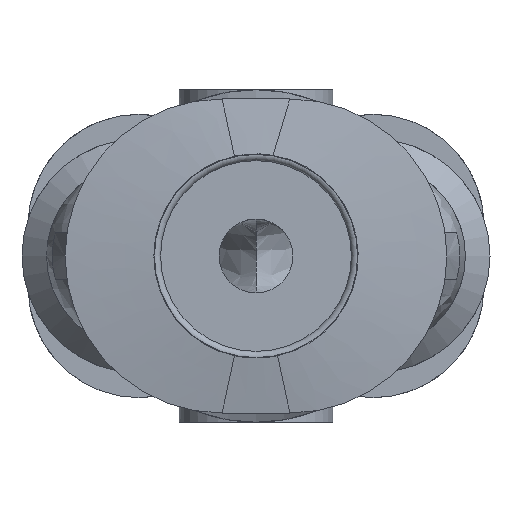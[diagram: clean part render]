
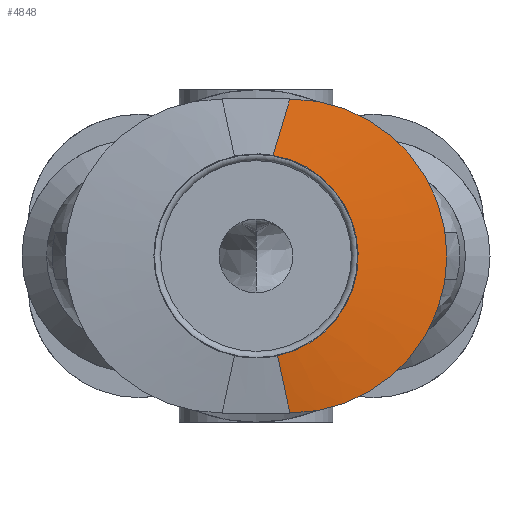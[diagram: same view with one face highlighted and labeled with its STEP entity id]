
A CAD part, front view. The second image highlights one B-rep face of the part: STEP entity #4848.
In plain terms, the highlighted free-form (B-spline) face has degree [3, 3] with [23, 4] control points.
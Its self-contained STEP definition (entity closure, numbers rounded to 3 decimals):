
#2655=CARTESIAN_POINT('',(0.551,-17.48,3.271));
#2656=VERTEX_POINT('',#2655);
#2673=CARTESIAN_POINT('',(0.699,-17.48,-3.243));
#2674=VERTEX_POINT('',#2673);
#2682=CARTESIAN_POINT('',(0.,-17.48,0.));
#2683=DIRECTION('',(0.0,1.0,0.0));
#2684=DIRECTION('',(-1.0,0.0,0.0));
#2685=AXIS2_PLACEMENT_3D('',#2682,#2683,#2684);
#2686=CIRCLE('',#2685,3.317);
#2687=EDGE_CURVE('',#2656,#2674,#2686,.T.);
#4708=CARTESIAN_POINT('',(1.1,-17.166,5.1));
#4709=VERTEX_POINT('',#4708);
#4710=CARTESIAN_POINT('',(0.551,-17.48,3.271));
#4711=CARTESIAN_POINT('',(0.734,-17.375,3.881));
#4712=CARTESIAN_POINT('',(0.917,-17.27,4.49));
#4713=CARTESIAN_POINT('',(1.1,-17.166,5.1));
#4714=QUASI_UNIFORM_CURVE('',3,(#4710,#4711,#4712,#4713),.UNSPECIFIED.,.F.,.U.);
#4715=EDGE_CURVE('',#2656,#4709,#4714,.T.);
#4735=CARTESIAN_POINT('',(0.551,-17.48,3.271));
#4736=CARTESIAN_POINT('',(0.581,-17.48,3.266));
#4737=CARTESIAN_POINT('',(0.719,-17.48,3.244));
#4738=CARTESIAN_POINT('',(1.077,-17.48,3.148));
#4739=CARTESIAN_POINT('',(1.479,-17.48,2.979));
#4740=CARTESIAN_POINT('',(1.861,-17.48,2.76));
#4741=CARTESIAN_POINT('',(2.187,-17.48,2.505));
#4742=CARTESIAN_POINT('',(2.438,-17.48,2.255));
#4743=CARTESIAN_POINT('',(2.676,-17.48,1.976));
#4744=CARTESIAN_POINT('',(2.941,-17.48,1.572));
#4745=CARTESIAN_POINT('',(3.178,-17.48,1.015));
#4746=CARTESIAN_POINT('',(3.312,-17.48,0.408));
#4747=CARTESIAN_POINT('',(3.33,-17.48,-0.219));
#4748=CARTESIAN_POINT('',(3.247,-17.48,-0.73));
#4749=CARTESIAN_POINT('',(3.128,-17.48,-1.118));
#4750=CARTESIAN_POINT('',(3.015,-17.48,-1.395));
#4751=CARTESIAN_POINT('',(2.79,-17.48,-1.829));
#4752=CARTESIAN_POINT('',(2.39,-17.48,-2.346));
#4753=CARTESIAN_POINT('',(1.814,-17.48,-2.804));
#4754=CARTESIAN_POINT('',(1.281,-17.48,-3.074));
#4755=CARTESIAN_POINT('',(0.876,-17.48,-3.205));
#4756=CARTESIAN_POINT('',(0.732,-17.48,-3.236));
#4757=CARTESIAN_POINT('',(0.699,-17.48,-3.243));
#4758=CARTESIAN_POINT('',(0.734,-17.375,3.881));
#4759=CARTESIAN_POINT('',(0.771,-17.375,3.878));
#4760=CARTESIAN_POINT('',(0.945,-17.375,3.863));
#4761=CARTESIAN_POINT('',(1.4,-17.375,3.775));
#4762=CARTESIAN_POINT('',(1.915,-17.375,3.596));
#4763=CARTESIAN_POINT('',(2.407,-17.375,3.349));
#4764=CARTESIAN_POINT('',(2.829,-17.375,3.048));
#4765=CARTESIAN_POINT('',(3.154,-17.375,2.748));
#4766=CARTESIAN_POINT('',(3.463,-17.375,2.408));
#4767=CARTESIAN_POINT('',(3.807,-17.375,1.91));
#4768=CARTESIAN_POINT('',(4.111,-17.375,1.215));
#4769=CARTESIAN_POINT('',(4.278,-17.375,0.455));
#4770=CARTESIAN_POINT('',(4.29,-17.375,-0.329));
#4771=CARTESIAN_POINT('',(4.17,-17.375,-0.967));
#4772=CARTESIAN_POINT('',(4.004,-17.375,-1.446));
#4773=CARTESIAN_POINT('',(3.849,-17.375,-1.786));
#4774=CARTESIAN_POINT('',(3.543,-17.375,-2.314));
#4775=CARTESIAN_POINT('',(3.007,-17.375,-2.929));
#4776=CARTESIAN_POINT('',(2.251,-17.375,-3.446));
#4777=CARTESIAN_POINT('',(1.563,-17.375,-3.724));
#4778=CARTESIAN_POINT('',(1.05,-17.375,-3.837));
#4779=CARTESIAN_POINT('',(0.872,-17.375,-3.857));
#4780=CARTESIAN_POINT('',(0.833,-17.375,-3.862));
#4781=CARTESIAN_POINT('',(0.917,-17.27,4.49));
#4782=CARTESIAN_POINT('',(0.962,-17.27,4.489));
#4783=CARTESIAN_POINT('',(1.172,-17.27,4.482));
#4784=CARTESIAN_POINT('',(1.723,-17.27,4.403));
#4785=CARTESIAN_POINT('',(2.351,-17.27,4.214));
#4786=CARTESIAN_POINT('',(2.952,-17.27,3.937));
#4787=CARTESIAN_POINT('',(3.471,-17.27,3.592));
#4788=CARTESIAN_POINT('',(3.87,-17.27,3.24));
#4789=CARTESIAN_POINT('',(4.25,-17.27,2.84));
#4790=CARTESIAN_POINT('',(4.672,-17.27,2.248));
#4791=CARTESIAN_POINT('',(5.044,-17.27,1.416));
#4792=CARTESIAN_POINT('',(5.244,-17.27,0.503));
#4793=CARTESIAN_POINT('',(5.25,-17.27,-0.44));
#4794=CARTESIAN_POINT('',(5.093,-17.27,-1.203));
#4795=CARTESIAN_POINT('',(4.881,-17.27,-1.774));
#4796=CARTESIAN_POINT('',(4.683,-17.27,-2.177));
#4797=CARTESIAN_POINT('',(4.297,-17.27,-2.799));
#4798=CARTESIAN_POINT('',(3.625,-17.27,-3.512));
#4799=CARTESIAN_POINT('',(2.687,-17.27,-4.088));
#4800=CARTESIAN_POINT('',(1.845,-17.27,-4.373));
#4801=CARTESIAN_POINT('',(1.224,-17.27,-4.469));
#4802=CARTESIAN_POINT('',(1.012,-17.27,-4.479));
#4803=CARTESIAN_POINT('',(0.966,-17.27,-4.481));
#4804=CARTESIAN_POINT('',(1.1,-17.166,5.1));
#4805=CARTESIAN_POINT('',(1.152,-17.166,5.1));
#4806=CARTESIAN_POINT('',(1.398,-17.166,5.101));
#4807=CARTESIAN_POINT('',(2.046,-17.166,5.03));
#4808=CARTESIAN_POINT('',(2.786,-17.166,4.831));
#4809=CARTESIAN_POINT('',(3.498,-17.166,4.526));
#4810=CARTESIAN_POINT('',(4.112,-17.166,4.135));
#4811=CARTESIAN_POINT('',(4.586,-17.166,3.733));
#4812=CARTESIAN_POINT('',(5.036,-17.166,3.271));
#4813=CARTESIAN_POINT('',(5.537,-17.166,2.586));
#4814=CARTESIAN_POINT('',(5.977,-17.166,1.617));
#4815=CARTESIAN_POINT('',(6.21,-17.166,0.55));
#4816=CARTESIAN_POINT('',(6.21,-17.166,-0.55));
#4817=CARTESIAN_POINT('',(6.016,-17.166,-1.439));
#4818=CARTESIAN_POINT('',(5.757,-17.166,-2.101));
#4819=CARTESIAN_POINT('',(5.517,-17.166,-2.567));
#4820=CARTESIAN_POINT('',(5.05,-17.166,-3.284));
#4821=CARTESIAN_POINT('',(4.242,-17.166,-4.096));
#4822=CARTESIAN_POINT('',(3.124,-17.166,-4.729));
#4823=CARTESIAN_POINT('',(2.127,-17.166,-5.022));
#4824=CARTESIAN_POINT('',(1.398,-17.166,-5.101));
#4825=CARTESIAN_POINT('',(1.152,-17.166,-5.1));
#4826=CARTESIAN_POINT('',(1.1,-17.166,-5.1));
#4827=B_SPLINE_SURFACE_WITH_KNOTS('',3,3,((#4735,#4758,#4781,#4804),(#4736,#4759,#4782,#4805),(#4737,#4760,#4783,#4806),(#4738,#4761,#4784,#4807),(#4739,#4762,#4785,#4808),(#4740,#4763,#4786,#4809),(#4741,#4764,#4787,#4810),(#4742,#4765,#4788,#4811),(#4743,#4766,#4789,#4812),(#4744,#4767,#4790,#4813),(#4745,#4768,#4791,#4814),(#4746,#4769,#4792,#4815),(#4747,#4770,#4793,#4816),(#4748,#4771,#4794,#4817),(#4749,#4772,#4795,#4818),(#4750,#4773,#4796,#4819),(#4751,#4774,#4797,#4820),(#4752,#4775,#4798,#4821),(#4753,#4776,#4799,#4822),(#4754,#4777,#4800,#4823),(#4755,#4778,#4801,#4824),(#4756,#4779,#4802,#4825),(#4757,#4780,#4803,#4826)),.UNSPECIFIED.,.F.,.F.,.U.,(4,1,1,1,1,1,1,1,1,1,1,1,1,1,1,1,1,1,1,1,4),(4,4),(0.0,0.071,0.143,0.19,0.238,0.286,0.31,0.333,0.381,0.429,0.476,0.524,0.571,0.595,0.619,0.643,0.714,0.786,0.857,0.929,1.0),(0.0,1.0),.UNSPECIFIED.);
#4828=ORIENTED_EDGE('',*,*,#2687,.T.);
#4829=CARTESIAN_POINT('',(1.1,-17.166,-5.1));
#4830=VERTEX_POINT('',#4829);
#4831=CARTESIAN_POINT('',(0.699,-17.48,-3.243));
#4832=CARTESIAN_POINT('',(0.833,-17.375,-3.862));
#4833=CARTESIAN_POINT('',(0.966,-17.27,-4.481));
#4834=CARTESIAN_POINT('',(1.1,-17.166,-5.1));
#4835=QUASI_UNIFORM_CURVE('',3,(#4831,#4832,#4833,#4834),.UNSPECIFIED.,.F.,.U.);
#4836=EDGE_CURVE('',#2674,#4830,#4835,.T.);
#4837=ORIENTED_EDGE('',*,*,#4836,.T.);
#4838=CARTESIAN_POINT('',(1.1,-17.166,0.));
#4839=DIRECTION('',(0.0,1.0,0.0));
#4840=DIRECTION('',(0.0,0.0,1.0));
#4841=AXIS2_PLACEMENT_3D('',#4838,#4839,#4840);
#4842=CIRCLE('',#4841,5.1);
#4843=EDGE_CURVE('',#4709,#4830,#4842,.T.);
#4844=ORIENTED_EDGE('',*,*,#4843,.F.);
#4845=ORIENTED_EDGE('',*,*,#4715,.F.);
#4846=EDGE_LOOP('',(#4828,#4837,#4844,#4845));
#4847=FACE_OUTER_BOUND('',#4846,.T.);
#4848=ADVANCED_FACE('',(#4847),#4827,.T.);
